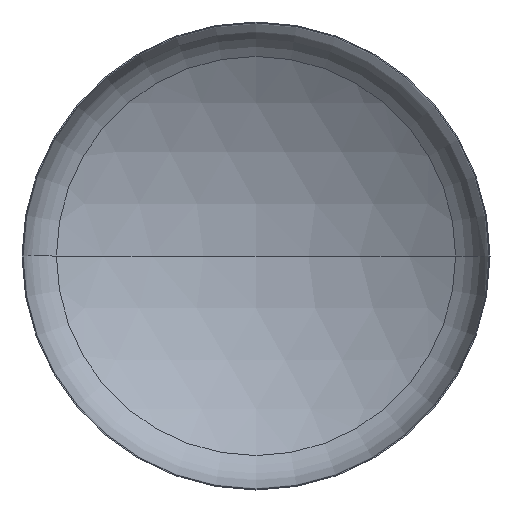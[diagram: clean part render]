
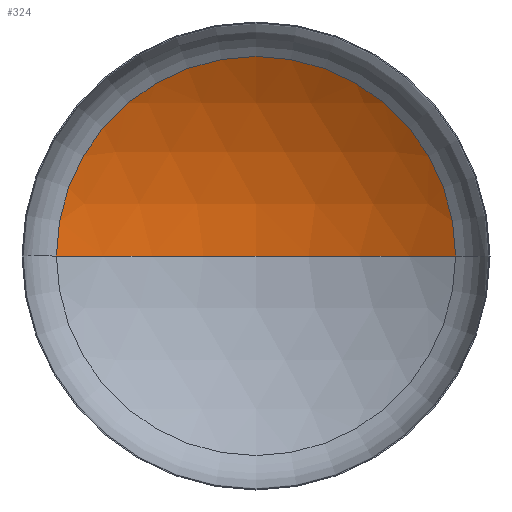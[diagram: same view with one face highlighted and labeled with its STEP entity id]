
A CAD part, front view. The second image highlights one B-rep face of the part: STEP entity #324.
In plain terms, the highlighted spherical face has radius 2400 mm.
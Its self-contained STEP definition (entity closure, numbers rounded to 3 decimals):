
#4 = ORIENTED_EDGE ( 'NONE', *, *, #383, .F. ) ;
#12 = VERTEX_POINT ( 'NONE', #337 ) ;
#21 = EDGE_LOOP ( 'NONE', ( #4, #334, #104 ) ) ;
#22 = AXIS2_PLACEMENT_3D ( 'NONE', #211, #335, #333 ) ;
#28 = AXIS2_PLACEMENT_3D ( 'NONE', #320, #328, #326 ) ;
#32 = AXIS2_PLACEMENT_3D ( 'NONE', #340, #399, #289 ) ;
#63 = VERTEX_POINT ( 'NONE', #217 ) ;
#104 = ORIENTED_EDGE ( 'NONE', *, *, #350, .T. ) ;
#108 = VERTEX_POINT ( 'NONE', #342 ) ;
#147 = SPHERICAL_SURFACE ( 'NONE', #32, 2400. ) ;
#148 = DIRECTION ( 'NONE',  ( 1., 0., 0. ) ) ;
#155 = DIRECTION ( 'NONE',  ( 0., 0., 1. ) ) ;
#156 = FACE_OUTER_BOUND ( 'NONE', #21, .T. ) ;
#157 = CARTESIAN_POINT ( 'NONE',  ( 0., -1621.476, 0. ) ) ;
#187 = CIRCLE ( 'NONE', #325, 2400. ) ;
#211 = CARTESIAN_POINT ( 'NONE',  ( 0., -1621.476, 0. ) ) ;
#217 = CARTESIAN_POINT ( 'NONE',  ( -1279.175, 409.216, 0. ) ) ;
#289 = DIRECTION ( 'NONE',  ( -1., 0., 0. ) ) ;
#320 = CARTESIAN_POINT ( 'NONE',  ( 0., 409.216, 0. ) ) ;
#324 = ADVANCED_FACE ( 'NONE', ( #156 ), #147, .F. ) ;
#325 = AXIS2_PLACEMENT_3D ( 'NONE', #157, #155, #148 ) ;
#326 = DIRECTION ( 'NONE',  ( 1., 0., 0. ) ) ;
#327 = CIRCLE ( 'NONE', #22, 2400. ) ;
#328 = DIRECTION ( 'NONE',  ( 0., -1., 0. ) ) ;
#333 = DIRECTION ( 'NONE',  ( -1., 0., 0. ) ) ;
#334 = ORIENTED_EDGE ( 'NONE', *, *, #352, .T. ) ;
#335 = DIRECTION ( 'NONE',  ( 0., 0., -1. ) ) ;
#337 = CARTESIAN_POINT ( 'NONE',  ( 1279.175, 409.216, 0. ) ) ;
#338 = CIRCLE ( 'NONE', #28, 1279.175 ) ;
#340 = CARTESIAN_POINT ( 'NONE',  ( 0., -1621.476, 0. ) ) ;
#342 = CARTESIAN_POINT ( 'NONE',  ( 0., 778.524, 0. ) ) ;
#350 = EDGE_CURVE ( 'NONE', #12, #63, #338, .T. ) ;
#352 = EDGE_CURVE ( 'NONE', #108, #12, #327, .T. ) ;
#383 = EDGE_CURVE ( 'NONE', #108, #63, #187, .T. ) ;
#399 = DIRECTION ( 'NONE',  ( 0., 0., -1. ) ) ;
